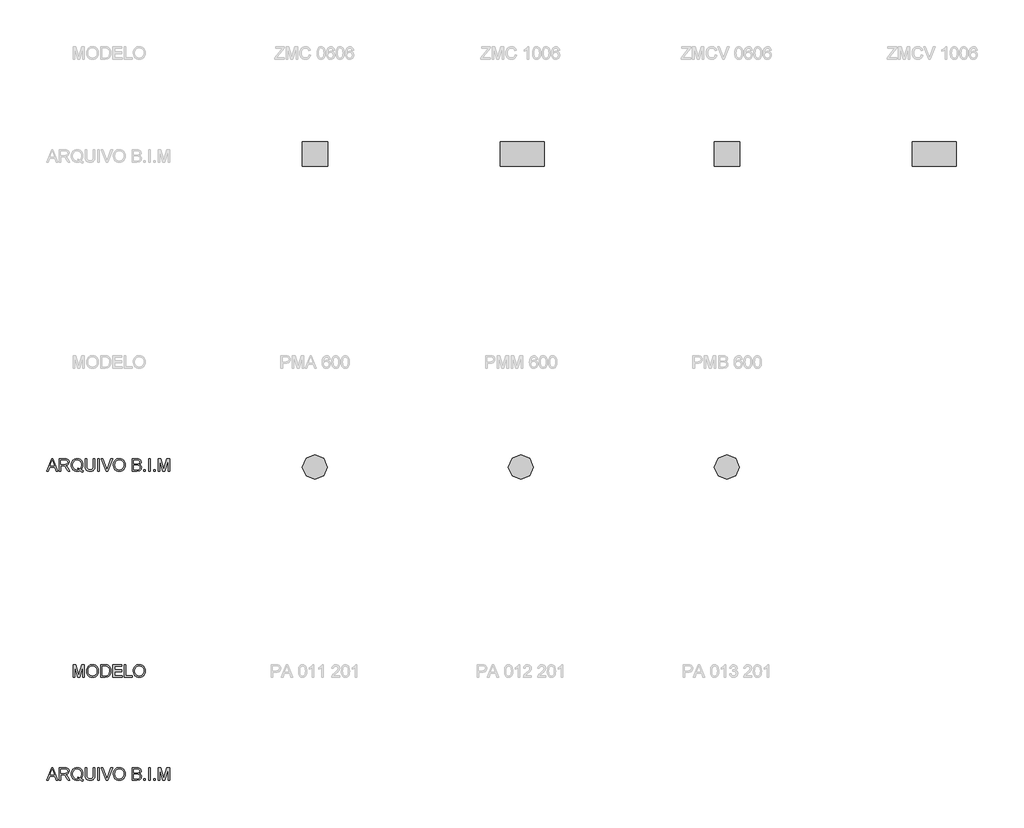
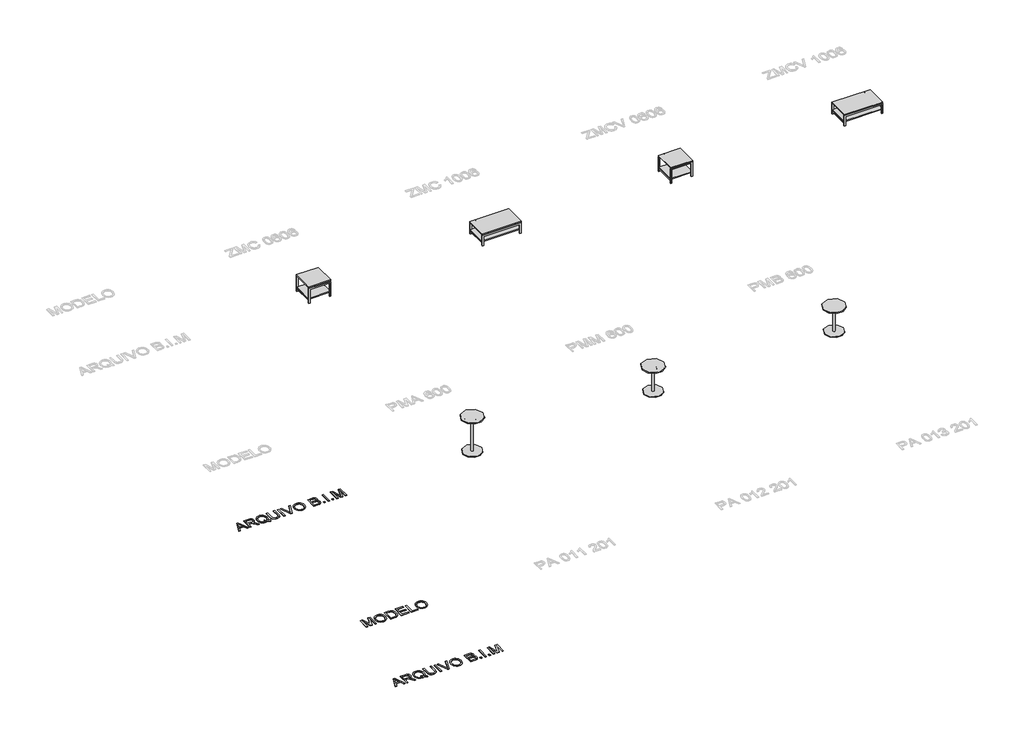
# One storey, part 1 of 5: 7 furniture elements, 3 proxies.
"""IFC4 building model written with IfcOpenShell, lengths in millimetres."""

from ifc_helpers import new_model, si_unit, origin, origin_with_axes, place, context, project, spatial, polyline, outline, extrude, transform, mapped, element, save
from components import furniture_a22a01db, furniture_84ceacd2, furniture_a7132519, furniture_01a6ce01, pma_600c_4e580cb3, pmb_600c_1b090ce4

model = new_model("IFC4")

# Units and contexts
model_context = context("Model", 3, world=origin())
ifc_project = project(units=[si_unit("LENGTHUNIT", "METRE", prefix="MILLI")], contexts=[model_context])

# Site, building, storey
site = spatial("IfcSite", under=ifc_project)
building = spatial("IfcBuilding", under=site)
storey = spatial("IfcBuildingStorey", under=building, Name="Marelli - Linha PERFECTA - Planta Baixa", Elevation=0.0)

# Proxies
placement = place(None, origin())
element("IfcBuildingElementProxy", 1, Name="300mm Arial", ObjectType="300mm Arial", at=placement, inside=storey, context=model_context, shape_type="SweptSolid", body=[
    extrude(outline(polyline([(-10609.419598, 6219.4336799), (-10489.1221856, 6520.8026104), (-10457.0428756, 6520.8026104), (-10336.7454632, 6219.4336799), (-10376.550295, 6219.4336799), (-10411.0576262, 6313.6114707), (-10535.1810114, 6313.6114707), (-10569.6147661, 6219.4336799), (-10609.419598, 6219.4336799)]), holes=[polyline([(-10521.3486483, 6351.282587), (-10424.8164128, 6351.282587), (-10451.9661041, 6425.3740208), (-10473.0825306, 6483.1314941), (-10491.8445123, 6431.8487439), (-10521.3486483, 6351.282587)])]), origin_with_axes(), (0.0, 0.0, 1.0), 10.0),
    extrude(outline(polyline([(-10296.4991729, 6219.4336799), (-10296.4991729, 6520.8026104), (-10166.6368286, 6520.8026104), (-10131.7340243, 6518.7700624), (-10106.3409696, 6512.6724183), (-10087.7813229, 6501.4152292), (-10073.3787428, 6483.9040463), (-10064.1357077, 6462.1898115), (-10061.054696, 6438.3234671), (-10066.1590587, 6408.6353901), (-10081.4721467, 6384.0240846), (-10093.0719259, 6373.9947017), (-10107.4538126, 6365.9794727), (-10144.5639089, 6355.9914765), (-10123.1531768, 6339.8782452), (-10092.6189712, 6301.1034829), (-10042.3662906, 6219.4336799), (-10086.144248, 6219.4336799), (-10125.3604687, 6281.9000427), (-10153.6873824, 6323.249979), (-10173.5897983, 6342.7845129), (-10191.5056515, 6349.9582118), (-10213.357842, 6351.282587), (-10258.8280566, 6351.282587), (-10258.8280566, 6219.4336799), (-10296.4991729, 6219.4336799)]), holes=[polyline([(-10258.8280566, 6388.9537033), (-10174.5095033, 6388.9537033), (-10150.293671, 6390.2872755), (-10131.5040981, 6394.2879922), (-10117.3590353, 6401.2225678), (-10107.0767336, 6411.3577168), (-10100.8135426, 6423.6173843), (-10098.7258123, 6436.9255155), (-10102.7081349, 6455.3012211), (-10114.6551027, 6470.1084714), (-10135.2105092, 6479.8757384), (-10165.0181478, 6483.1314941), (-10258.8280566, 6483.1314941), (-10258.8280566, 6388.9537033)])]), origin_with_axes(), (0.0, 0.0, 1.0), 10.0),
    extrude(outline(polyline([(-9768.7356626, 6255.5596919), (-9744.4002686, 6236.963257), (-9722.0146492, 6224.1425695), (-9732.1681923, 6196.5514198), (-9763.2358268, 6210.9539999), (-9794.1930967, 6231.794515), (-9829.0499157, 6218.9922215), (-9867.4016137, 6214.7247904), (-9905.9372527, 6219.6452121), (-9940.7572836, 6234.4064771), (-9969.9211287, 6258.0796835), (-9991.4882107, 6289.7359292), (-10004.814736, 6327.6369718), (-10009.2569111, 6370.0445688), (-10004.823933, 6412.488954), (-9991.5249989, 6450.9418195), (-9970.0406904, 6483.0487206), (-9941.0515892, 6506.4552126), (-9906.360317, 6520.7474281), (-9867.7694957, 6525.5114999), (-9828.8751718, 6520.6370635), (-9794.0091557, 6506.0137542), (-9765.0660397, 6482.6164593), (-9743.9404161, 6451.4200661), (-9731.0277581, 6414.0800436), (-9726.7235388, 6372.2518607), (-9729.3355009, 6337.4686181), (-9737.1713874, 6306.4009836), (-9750.2863806, 6279.0857454), (-9768.7356626, 6255.5596919)]), holes=[polyline([(-9857.0273415, 6305.6652196), (-9825.3527017, 6293.6906607), (-9799.784903, 6277.0440004), (-9784.3016695, 6294.5183951), (-9773.2422171, 6315.8923391), (-9766.6065456, 6341.1658321), (-9764.3946551, 6370.3388744), (-9767.521652, 6403.4942392), (-9776.9026429, 6432.1798377), (-9792.3077015, 6455.6691031), (-9813.5069014, 6473.2354684), (-9839.065503, 6484.1891548), (-9867.5487665, 6487.8403836), (-9889.033075, 6485.9940758), (-9908.6043972, 6480.4551526), (-9926.2627329, 6471.2236137), (-9942.0080823, 6458.2994594), (-9954.9483315, 6441.7102807), (-9964.1913666, 6421.4836687), (-9969.7371877, 6397.6196236), (-9971.5857948, 6370.1181452), (-9969.7578811, 6343.3340366), (-9964.2741401, 6319.8562676), (-9955.1345718, 6299.6848379), (-9942.3391761, 6282.8197477), (-9926.7018921, 6269.5093173), (-9909.0366585, 6260.001867), (-9889.3434755, 6254.2973968), (-9867.6223429, 6252.3959067), (-9846.7082515, 6254.3272872), (-9827.081747, 6260.1214286), (-9846.3771577, 6270.146213), (-9866.7394261, 6276.8232712), (-9857.0273415, 6305.6652196)])]), origin_with_axes(), (0.0, 0.0, 1.0), 10.0),
    extrude(outline(polyline([(-9472.4435037, 6520.8026104), (-9434.7723874, 6520.8026104), (-9434.7723874, 6346.9415795), (-9437.3291673, 6306.2262396), (-9444.9995069, 6274.8734966), (-9459.3285106, 6250.6852554), (-9481.8612828, 6231.4634212), (-9512.6530058, 6218.9094481), (-9551.7588619, 6214.7247904), (-9590.0093923, 6218.3668221), (-9620.5895832, 6229.2929174), (-9643.5086315, 6247.1259971), (-9658.7757343, 6271.4889822), (-9667.3565818, 6304.1661005), (-9670.2168643, 6346.9415795), (-9670.2168643, 6520.8026104), (-9632.545748, 6520.8026104), (-9632.545748, 6348.2659546), (-9630.6879439, 6314.411614), (-9625.1145317, 6290.8395752), (-9615.0161709, 6274.5148117), (-9599.5835212, 6262.402297), (-9579.4603761, 6254.8975043), (-9555.290529, 6252.3959067), (-9516.9756192, 6257.3439195), (-9502.6328199, 6263.5289356), (-9491.499791, 6272.187958), (-9483.1626653, 6284.3648521), (-9477.2075755, 6301.1034829), (-9472.4435037, 6348.2659546), (-9472.4435037, 6520.8026104)])), origin_with_axes(), (0.0, 0.0, 1.0), 10.0),
    extrude(outline(polyline([(-9364.1390443, 6219.4336799), (-9364.1390443, 6520.8026104), (-9326.467928, 6520.8026104), (-9326.467928, 6219.4336799), (-9364.1390443, 6219.4336799)])), origin_with_axes(), (0.0, 0.0, 1.0), 10.0),
    extrude(outline(polyline([(-9162.0982526, 6219.4336799), (-9282.027783, 6520.8026104), (-9241.7079163, 6520.8026104), (-9161.436065, 6303.6786568), (-9145.1756808, 6254.7503515), (-9129.1360258, 6303.6786568), (-9048.6434453, 6520.8026104), (-9008.3235786, 6520.8026104), (-9123.1763375, 6219.4336799), (-9162.0982526, 6219.4336799)])), origin_with_axes(), (0.0, 0.0, 1.0), 10.0),
    extrude(outline(polyline([(-8987.4278813, 6366.1450196), (-8984.9170866, 6401.4938808), (-8977.3847028, 6432.786843), (-8964.8307297, 6460.0239063), (-8947.2551674, 6483.2050705), (-8925.711078, 6501.7141334), (-8901.2515239, 6514.9348926), (-8873.8765049, 6522.8673481), (-8843.5860211, 6525.5114999), (-8804.0571008, 6520.545093), (-8768.6116705, 6505.6458722), (-8739.1811109, 6481.8623012), (-8717.6968024, 6450.2428437), (-8704.5634152, 6412.31421), (-8700.1856194, 6369.6031104), (-8704.7933414, 6326.3217936), (-8718.6165074, 6287.859731), (-8740.8917622, 6256.1850913), (-8770.8557507, 6233.266043), (-8805.9976783, 6219.3601035), (-8843.8067503, 6214.7247904), (-8883.942676, 6219.8475472), (-8919.5904413, 6235.2158175), (-8948.9474246, 6259.4408469), (-8970.2110039, 6291.1338808), (-8983.1236619, 6327.6001836), (-8987.4278813, 6366.1450196)]), holes=[polyline([(-8949.7567649, 6365.7771376), (-8947.873669, 6340.8025487), (-8942.2243811, 6318.6330599), (-8932.8089013, 6299.2686714), (-8919.6272295, 6282.7093831), (-8903.6036694, 6269.4472372), (-8885.6625243, 6259.9742758), (-8865.8037944, 6254.290499), (-8844.0274795, 6252.3959067), (-8821.8786842, 6254.3088931), (-8801.7854294, 6260.0478522), (-8783.7477154, 6269.6127841), (-8767.7655419, 6283.0036887), (-8754.6804392, 6299.9124649), (-8745.3339373, 6320.0310115), (-8739.7260361, 6343.3593285), (-8737.8567357, 6369.897416), (-8741.0573091, 6403.2459188), (-8750.6590292, 6432.0694731), (-8766.4135756, 6455.641512), (-8788.0726281, 6473.2354684), (-8814.2014468, 6484.1891548), (-8843.3652919, 6487.8403836), (-8864.3851494, 6486.0814478), (-8883.8874937, 6480.8046405), (-8901.8723248, 6472.0099615), (-8918.3396426, 6459.697411), (-8932.0846336, 6443.2737792), (-8941.9024844, 6422.1458563), (-8947.7931948, 6396.3136425), (-8949.7567649, 6365.7771376)])]), origin_with_axes(), (0.0, 0.0, 1.0), 10.0),
    extrude(outline(polyline([(-8530.665596, 6219.4336799), (-8530.665596, 6520.8026104), (-8415.6656844, 6520.8026104), (-8384.0370298, 6518.5861214), (-8359.3429509, 6511.9366543), (-8340.4154222, 6500.6886623), (-8326.0864185, 6484.6765985), (-8317.0641126, 6465.8410403), (-8314.0566773, 6446.1225654), (-8316.585866, 6427.9767859), (-8324.1734321, 6410.9162584), (-8336.874558, 6395.9894465), (-8354.7444259, 6384.2448138), (-8333.3980732, 6373.0979893), (-8317.6251326, 6356.1386293), (-8307.8854568, 6334.4887739), (-8304.6388982, 6309.2704632), (-8306.8553872, 6288.2552042), (-8313.5048543, 6268.7666555), (-8323.4284711, 6252.1935716), (-8335.4674094, 6239.9247071), (-8350.2102804, 6231.0403569), (-8368.2456952, 6224.6208161), (-8416.5486011, 6219.4336799), (-8530.665596, 6219.4336799)]), holes=[polyline([(-8492.9944797, 6398.3714824), (-8424.2005466, 6398.3714824), (-8384.0278328, 6401.6088439), (-8369.9655435, 6407.1914532), (-8359.8579857, 6415.5515716), (-8353.7603416, 6426.5604403), (-8351.7277936, 6440.0893006), (-8353.6223859, 6453.2226879), (-8359.3061627, 6464.6638179), (-8368.5216067, 6473.5941533), (-8381.0112004, 6479.1951567), (-8429.424471, 6483.1314941), (-8492.9944797, 6483.1314941), (-8492.9944797, 6398.3714824)]), polyline([(-8492.9944797, 6257.1047962), (-8415.7392607, 6257.1047962), (-8387.7802291, 6258.5763242), (-8364.1254168, 6266.7800927), (-8348.4536438, 6283.5187235), (-8343.8459218, 6295.3461296), (-8342.3100145, 6308.9025812), (-8344.1126363, 6324.6479306), (-8349.5205016, 6338.185988), (-8358.9658718, 6348.7717924), (-8372.8810083, 6355.6603827), (-8392.5902862, 6359.4403702), (-8419.4180807, 6360.7003661), (-8492.9944797, 6360.7003661), (-8492.9944797, 6257.1047962)])]), origin_with_axes(), (0.0, 0.0, 1.0), 10.0),
    extrude(outline(polyline([(-8248.1322237, 6219.4336799), (-8248.1322237, 6257.1047962), (-8210.4611074, 6257.1047962), (-8210.4611074, 6219.4336799), (-8248.1322237, 6219.4336799)])), origin_with_axes(), (0.0, 0.0, 1.0), 10.0),
    extrude(outline(polyline([(-8130.4099853, 6219.4336799), (-8130.4099853, 6520.8026104), (-8092.738869, 6520.8026104), (-8092.738869, 6219.4336799), (-8130.4099853, 6219.4336799)])), origin_with_axes(), (0.0, 0.0, 1.0), 10.0),
    extrude(outline(polyline([(-8012.6877468, 6219.4336799), (-8012.6877468, 6257.1047962), (-7975.0166305, 6257.1047962), (-7975.0166305, 6219.4336799), (-8012.6877468, 6219.4336799)])), origin_with_axes(), (0.0, 0.0, 1.0), 10.0),
    extrude(outline(polyline([(-7899.6743979, 6219.4336799), (-7899.6743979, 6520.8026104), (-7834.8535904, 6520.8026104), (-7773.196568, 6308.3875464), (-7760.7621565, 6264.0209777), (-7747.2976755, 6312.0663663), (-7686.6707227, 6520.8026104), (-7621.8499152, 6520.8026104), (-7621.8499152, 6219.4336799), (-7659.5210315, 6219.4336799), (-7659.5210315, 6483.1314941), (-7735.2311461, 6219.4336799), (-7786.293167, 6219.4336799), (-7862.0032816, 6483.1314941), (-7862.0032816, 6219.4336799), (-7899.6743979, 6219.4336799)])), origin_with_axes(), (0.0, 0.0, 1.0), 10.0),
])
element("IfcBuildingElementProxy", 2, Name="300mm Arial", ObjectType="300mm Arial", at=placement, inside=storey, context=model_context, shape_type="SweptSolid", body=[
    extrude(outline(polyline([(-10609.419598, -1280.5663201), (-10489.1221856, -979.1973896), (-10457.0428756, -979.1973896), (-10336.7454632, -1280.5663201), (-10376.550295, -1280.5663201), (-10411.0576262, -1186.3885293), (-10535.1810114, -1186.3885293), (-10569.6147661, -1280.5663201), (-10609.419598, -1280.5663201)]), holes=[polyline([(-10521.3486483, -1148.717413), (-10424.8164128, -1148.717413), (-10451.9661041, -1074.6259792), (-10473.0825306, -1016.8685059), (-10491.8445123, -1068.1512561), (-10521.3486483, -1148.717413)])]), origin_with_axes(), (0.0, 0.0, 1.0), 10.0),
    extrude(outline(polyline([(-10296.4991729, -1280.5663201), (-10296.4991729, -979.1973896), (-10166.6368286, -979.1973896), (-10131.7340243, -981.2299376), (-10106.3409696, -987.3275817), (-10087.7813229, -998.5847708), (-10073.3787428, -1016.0959537), (-10064.1357077, -1037.8101885), (-10061.054696, -1061.6765329), (-10066.1590587, -1091.3646099), (-10081.4721467, -1115.9759154), (-10093.0719259, -1126.0052983), (-10107.4538126, -1134.0205273), (-10144.5639089, -1144.0085235), (-10123.1531768, -1160.1217548), (-10092.6189712, -1198.8965171), (-10042.3662906, -1280.5663201), (-10086.144248, -1280.5663201), (-10125.3604687, -1218.0999573), (-10153.6873824, -1176.750021), (-10173.5897983, -1157.2154871), (-10191.5056515, -1150.0417882), (-10213.357842, -1148.717413), (-10258.8280566, -1148.717413), (-10258.8280566, -1280.5663201), (-10296.4991729, -1280.5663201)]), holes=[polyline([(-10258.8280566, -1111.0462967), (-10174.5095033, -1111.0462967), (-10150.293671, -1109.7127245), (-10131.5040981, -1105.7120078), (-10117.3590353, -1098.7774322), (-10107.0767336, -1088.6422832), (-10100.8135426, -1076.3826157), (-10098.7258123, -1063.0744845), (-10102.7081349, -1044.6987789), (-10114.6551027, -1029.8915286), (-10135.2105092, -1020.1242616), (-10165.0181478, -1016.8685059), (-10258.8280566, -1016.8685059), (-10258.8280566, -1111.0462967)])]), origin_with_axes(), (0.0, 0.0, 1.0), 10.0),
    extrude(outline(polyline([(-9768.7356626, -1244.4403081), (-9744.4002686, -1263.036743), (-9722.0146492, -1275.8574305), (-9732.1681923, -1303.4485802), (-9763.2358268, -1289.0460001), (-9794.1930967, -1268.205485), (-9829.0499157, -1281.0077785), (-9867.4016137, -1285.2752096), (-9905.9372527, -1280.3547879), (-9940.7572836, -1265.5935229), (-9969.9211287, -1241.9203165), (-9991.4882107, -1210.2640708), (-10004.814736, -1172.3630282), (-10009.2569111, -1129.9554312), (-10004.823933, -1087.511046), (-9991.5249989, -1049.0581805), (-9970.0406904, -1016.9512794), (-9941.0515892, -993.5447874), (-9906.360317, -979.2525719), (-9867.7694957, -974.4885001), (-9828.8751718, -979.3629365), (-9794.0091557, -993.9862458), (-9765.0660397, -1017.3835407), (-9743.9404161, -1048.5799339), (-9731.0277581, -1085.9199564), (-9726.7235388, -1127.7481393), (-9729.3355009, -1162.5313819), (-9737.1713874, -1193.5990164), (-9750.2863806, -1220.9142546), (-9768.7356626, -1244.4403081)]), holes=[polyline([(-9857.0273415, -1194.3347804), (-9825.3527017, -1206.3093393), (-9799.784903, -1222.9559996), (-9784.3016695, -1205.4816049), (-9773.2422171, -1184.1076609), (-9766.6065456, -1158.8341679), (-9764.3946551, -1129.6611256), (-9767.521652, -1096.5057608), (-9776.9026429, -1067.8201623), (-9792.3077015, -1044.3308969), (-9813.5069014, -1026.7645316), (-9839.065503, -1015.8108452), (-9867.5487665, -1012.1596164), (-9889.033075, -1014.0059242), (-9908.6043972, -1019.5448474), (-9926.2627329, -1028.7763863), (-9942.0080823, -1041.7005406), (-9954.9483315, -1058.2897193), (-9964.1913666, -1078.5163313), (-9969.7371877, -1102.3803764), (-9971.5857948, -1129.8818548), (-9969.7578811, -1156.6659634), (-9964.2741401, -1180.1437324), (-9955.1345718, -1200.3151621), (-9942.3391761, -1217.1802523), (-9926.7018921, -1230.4906827), (-9909.0366585, -1239.998133), (-9889.3434755, -1245.7026032), (-9867.6223429, -1247.6040933), (-9846.7082515, -1245.6727128), (-9827.081747, -1239.8785714), (-9846.3771577, -1229.853787), (-9866.7394261, -1223.1767288), (-9857.0273415, -1194.3347804)])]), origin_with_axes(), (0.0, 0.0, 1.0), 10.0),
    extrude(outline(polyline([(-9472.4435037, -979.1973896), (-9434.7723874, -979.1973896), (-9434.7723874, -1153.0584205), (-9437.3291673, -1193.7737604), (-9444.9995069, -1225.1265034), (-9459.3285106, -1249.3147446), (-9481.8612828, -1268.5365788), (-9512.6530058, -1281.0905519), (-9551.7588619, -1285.2752096), (-9590.0093923, -1281.6331779), (-9620.5895832, -1270.7070826), (-9643.5086315, -1252.8740029), (-9658.7757343, -1228.5110178), (-9667.3565818, -1195.8338995), (-9670.2168643, -1153.0584205), (-9670.2168643, -979.1973896), (-9632.545748, -979.1973896), (-9632.545748, -1151.7340454), (-9630.6879439, -1185.588386), (-9625.1145317, -1209.1604248), (-9615.0161709, -1225.4851883), (-9599.5835212, -1237.597703), (-9579.4603761, -1245.1024957), (-9555.290529, -1247.6040933), (-9516.9756192, -1242.6560805), (-9502.6328199, -1236.4710644), (-9491.499791, -1227.812042), (-9483.1626653, -1215.6351479), (-9477.2075755, -1198.8965171), (-9472.4435037, -1151.7340454), (-9472.4435037, -979.1973896)])), origin_with_axes(), (0.0, 0.0, 1.0), 10.0),
    extrude(outline(polyline([(-9364.1390443, -1280.5663201), (-9364.1390443, -979.1973896), (-9326.467928, -979.1973896), (-9326.467928, -1280.5663201), (-9364.1390443, -1280.5663201)])), origin_with_axes(), (0.0, 0.0, 1.0), 10.0),
    extrude(outline(polyline([(-9162.0982526, -1280.5663201), (-9282.027783, -979.1973896), (-9241.7079163, -979.1973896), (-9161.436065, -1196.3213432), (-9145.1756808, -1245.2496485), (-9129.1360258, -1196.3213432), (-9048.6434453, -979.1973896), (-9008.3235786, -979.1973896), (-9123.1763375, -1280.5663201), (-9162.0982526, -1280.5663201)])), origin_with_axes(), (0.0, 0.0, 1.0), 10.0),
    extrude(outline(polyline([(-8987.4278813, -1133.8549804), (-8984.9170866, -1098.5061192), (-8977.3847028, -1067.213157), (-8964.8307297, -1039.9760937), (-8947.2551674, -1016.7949295), (-8925.711078, -998.2858666), (-8901.2515239, -985.0651074), (-8873.8765049, -977.1326519), (-8843.5860211, -974.4885001), (-8804.0571008, -979.454907), (-8768.6116705, -994.3541278), (-8739.1811109, -1018.1376988), (-8717.6968024, -1049.7571563), (-8704.5634152, -1087.68579), (-8700.1856194, -1130.3968896), (-8704.7933414, -1173.6782064), (-8718.6165074, -1212.140269), (-8740.8917622, -1243.8149087), (-8770.8557507, -1266.733957), (-8805.9976783, -1280.6398965), (-8843.8067503, -1285.2752096), (-8883.942676, -1280.1524528), (-8919.5904413, -1264.7841825), (-8948.9474246, -1240.5591531), (-8970.2110039, -1208.8661192), (-8983.1236619, -1172.3998164), (-8987.4278813, -1133.8549804)]), holes=[polyline([(-8949.7567649, -1134.2228624), (-8947.873669, -1159.1974513), (-8942.2243811, -1181.3669401), (-8932.8089013, -1200.7313286), (-8919.6272295, -1217.2906169), (-8903.6036694, -1230.5527628), (-8885.6625243, -1240.0257242), (-8865.8037944, -1245.709501), (-8844.0274795, -1247.6040933), (-8821.8786842, -1245.6911069), (-8801.7854294, -1239.9521478), (-8783.7477154, -1230.3872159), (-8767.7655419, -1216.9963113), (-8754.6804392, -1200.0875351), (-8745.3339373, -1179.9689885), (-8739.7260361, -1156.6406715), (-8737.8567357, -1130.102584), (-8741.0573091, -1096.7540812), (-8750.6590292, -1067.9305269), (-8766.4135756, -1044.358488), (-8788.0726281, -1026.7645316), (-8814.2014468, -1015.8108452), (-8843.3652919, -1012.1596164), (-8864.3851494, -1013.9185522), (-8883.8874937, -1019.1953595), (-8901.8723248, -1027.9900385), (-8918.3396426, -1040.302589), (-8932.0846336, -1056.7262208), (-8941.9024844, -1077.8541437), (-8947.7931948, -1103.6863575), (-8949.7567649, -1134.2228624)])]), origin_with_axes(), (0.0, 0.0, 1.0), 10.0),
    extrude(outline(polyline([(-8530.665596, -1280.5663201), (-8530.665596, -979.1973896), (-8415.6656844, -979.1973896), (-8384.0370298, -981.4138786), (-8359.3429509, -988.0633457), (-8340.4154222, -999.3113377), (-8326.0864185, -1015.3234015), (-8317.0641126, -1034.1589597), (-8314.0566773, -1053.8774346), (-8316.585866, -1072.0232141), (-8324.1734321, -1089.0837416), (-8336.874558, -1104.0105535), (-8354.7444259, -1115.7551862), (-8333.3980732, -1126.9020107), (-8317.6251326, -1143.8613707), (-8307.8854568, -1165.5112261), (-8304.6388982, -1190.7295368), (-8306.8553872, -1211.7447958), (-8313.5048543, -1231.2333445), (-8323.4284711, -1247.8064284), (-8335.4674094, -1260.0752929), (-8350.2102804, -1268.9596431), (-8368.2456952, -1275.3791839), (-8416.5486011, -1280.5663201), (-8530.665596, -1280.5663201)]), holes=[polyline([(-8492.9944797, -1101.6285176), (-8424.2005466, -1101.6285176), (-8384.0278328, -1098.3911561), (-8369.9655435, -1092.8085468), (-8359.8579857, -1084.4484284), (-8353.7603416, -1073.4395597), (-8351.7277936, -1059.9106994), (-8353.6223859, -1046.7773121), (-8359.3061627, -1035.3361821), (-8368.5216067, -1026.4058467), (-8381.0112004, -1020.8048433), (-8429.424471, -1016.8685059), (-8492.9944797, -1016.8685059), (-8492.9944797, -1101.6285176)]), polyline([(-8492.9944797, -1242.8952038), (-8415.7392607, -1242.8952038), (-8387.7802291, -1241.4236758), (-8364.1254168, -1233.2199073), (-8348.4536438, -1216.4812765), (-8343.8459218, -1204.6538704), (-8342.3100145, -1191.0974188), (-8344.1126363, -1175.3520694), (-8349.5205016, -1161.814012), (-8358.9658718, -1151.2282076), (-8372.8810083, -1144.3396173), (-8392.5902862, -1140.5596298), (-8419.4180807, -1139.2996339), (-8492.9944797, -1139.2996339), (-8492.9944797, -1242.8952038)])]), origin_with_axes(), (0.0, 0.0, 1.0), 10.0),
    extrude(outline(polyline([(-8248.1322237, -1280.5663201), (-8248.1322237, -1242.8952038), (-8210.4611074, -1242.8952038), (-8210.4611074, -1280.5663201), (-8248.1322237, -1280.5663201)])), origin_with_axes(), (0.0, 0.0, 1.0), 10.0),
    extrude(outline(polyline([(-8130.4099853, -1280.5663201), (-8130.4099853, -979.1973896), (-8092.738869, -979.1973896), (-8092.738869, -1280.5663201), (-8130.4099853, -1280.5663201)])), origin_with_axes(), (0.0, 0.0, 1.0), 10.0),
    extrude(outline(polyline([(-8012.6877468, -1280.5663201), (-8012.6877468, -1242.8952038), (-7975.0166305, -1242.8952038), (-7975.0166305, -1280.5663201), (-8012.6877468, -1280.5663201)])), origin_with_axes(), (0.0, 0.0, 1.0), 10.0),
    extrude(outline(polyline([(-7899.6743979, -1280.5663201), (-7899.6743979, -979.1973896), (-7834.8535904, -979.1973896), (-7773.196568, -1191.6124536), (-7760.7621565, -1235.9790223), (-7747.2976755, -1187.9336337), (-7686.6707227, -979.1973896), (-7621.8499152, -979.1973896), (-7621.8499152, -1280.5663201), (-7659.5210315, -1280.5663201), (-7659.5210315, -1016.8685059), (-7735.2311461, -1280.5663201), (-7786.293167, -1280.5663201), (-7862.0032816, -1016.8685059), (-7862.0032816, -1280.5663201), (-7899.6743979, -1280.5663201)])), origin_with_axes(), (0.0, 0.0, 1.0), 10.0),
])
element("IfcBuildingElementProxy", 3, Name="300mm Arial", ObjectType="300mm Arial", at=placement, inside=storey, context=model_context, shape_type="SweptSolid", body=[
    extrude(outline(polyline([(-9966.8769052, 1219.4336799), (-9966.8769052, 1520.8026104), (-9902.0560977, 1520.8026104), (-9840.3990753, 1308.3875464), (-9827.9646638, 1264.0209777), (-9814.5001828, 1312.0663663), (-9753.87323, 1520.8026104), (-9689.0524225, 1520.8026104), (-9689.0524225, 1219.4336799), (-9726.7235388, 1219.4336799), (-9726.7235388, 1483.1314941), (-9802.4336534, 1219.4336799), (-9853.4956743, 1219.4336799), (-9929.2057889, 1483.1314941), (-9929.2057889, 1219.4336799), (-9966.8769052, 1219.4336799)])), origin_with_axes(), (0.0, 0.0, 1.0), 10.0),
    extrude(outline(polyline([(-9637.2546375, 1366.1450196), (-9634.7438429, 1401.4938808), (-9627.2114591, 1432.786843), (-9614.657486, 1460.0239063), (-9597.0819237, 1483.2050705), (-9575.5378343, 1501.7141334), (-9551.0782802, 1514.9348926), (-9523.7032612, 1522.8673481), (-9493.4127774, 1525.5114999), (-9453.883857, 1520.545093), (-9418.4384268, 1505.6458722), (-9389.0078672, 1481.8623012), (-9367.5235587, 1450.2428437), (-9354.3901714, 1412.31421), (-9350.0123757, 1369.6031104), (-9354.6200977, 1326.3217936), (-9368.4432637, 1287.859731), (-9390.7185185, 1256.1850913), (-9420.682507, 1233.266043), (-9455.8244346, 1219.3601035), (-9493.6335066, 1214.7247904), (-9533.7694323, 1219.8475472), (-9569.4171976, 1235.2158175), (-9598.7741808, 1259.4408469), (-9620.0377602, 1291.1338808), (-9632.9504182, 1327.6001836), (-9637.2546375, 1366.1450196)]), holes=[polyline([(-9599.5835212, 1365.7771376), (-9597.7004253, 1340.8025487), (-9592.0511374, 1318.6330599), (-9582.6356576, 1299.2686714), (-9569.4539858, 1282.7093831), (-9553.4304257, 1269.4472372), (-9535.4892806, 1259.9742758), (-9515.6305507, 1254.290499), (-9493.8542358, 1252.3959067), (-9471.7054404, 1254.3088931), (-9451.6121857, 1260.0478522), (-9433.5744716, 1269.6127841), (-9417.5922982, 1283.0036887), (-9404.5071955, 1299.9124649), (-9395.1606936, 1320.0310115), (-9389.5527924, 1343.3593285), (-9387.683492, 1369.897416), (-9390.8840654, 1403.2459188), (-9400.4857854, 1432.0694731), (-9416.2403319, 1455.641512), (-9437.8993843, 1473.2354684), (-9464.0282031, 1484.1891548), (-9493.1920482, 1487.8403836), (-9514.2119057, 1486.0814478), (-9533.71425, 1480.8046405), (-9551.699081, 1472.0099615), (-9568.1663988, 1459.697411), (-9581.9113899, 1443.2737792), (-9591.7292406, 1422.1458563), (-9597.6199511, 1396.3136425), (-9599.5835212, 1365.7771376)])]), origin_with_axes(), (0.0, 0.0, 1.0), 10.0),
    extrude(outline(polyline([(-9298.2145908, 1219.4336799), (-9298.2145908, 1520.8026104), (-9194.2511389, 1520.8026104), (-9140.4667912, 1516.4616028), (-9116.444097, 1508.0922874), (-9096.173799, 1494.9037179), (-9075.333284, 1471.9478814), (-9060.4892455, 1443.4002386), (-9051.6048953, 1409.8126124), (-9048.6434453, 1371.7368259), (-9050.6484021, 1339.3908015), (-9056.6632727, 1310.9259321), (-9065.8235344, 1286.6917057), (-9077.2646645, 1267.0376101), (-9090.4348399, 1251.522187), (-9104.7822377, 1239.7039779), (-9121.254154, 1230.9391893), (-9140.797885, 1224.5840279), (-9189.2479438, 1219.4336799), (-9298.2145908, 1219.4336799)]), holes=[polyline([(-9260.5434745, 1257.1047962), (-9193.8832569, 1257.1047962), (-9166.3105014, 1258.4659596), (-9145.39641, 1262.5494498), (-9129.6142724, 1269.1161434), (-9117.4373783, 1277.9269172), (-9104.3499764, 1294.2332866), (-9094.51833, 1315.3405161), (-9088.3655037, 1341.3405761), (-9086.3145616, 1372.3254371), (-9090.3336724, 1413.3810678), (-9102.3910047, 1443.6945442), (-9120.2056904, 1464.5166651), (-9141.4968608, 1477.0982294), (-9163.1651103, 1481.6231779), (-9194.9133265, 1483.1314941), (-9260.5434745, 1483.1314941), (-9260.5434745, 1257.1047962)])]), origin_with_axes(), (0.0, 0.0, 1.0), 10.0),
    extrude(outline(polyline([(-8996.8456603, 1219.4336799), (-8996.8456603, 1520.8026104), (-8780.2367416, 1520.8026104), (-8780.2367416, 1483.1314941), (-8959.174544, 1483.1314941), (-8959.174544, 1393.6625928), (-8789.6545206, 1393.6625928), (-8789.6545206, 1355.9914765), (-8959.174544, 1355.9914765), (-8959.174544, 1257.1047962), (-8775.527852, 1257.1047962), (-8775.527852, 1219.4336799), (-8996.8456603, 1219.4336799)])), origin_with_axes(), (0.0, 0.0, 1.0), 10.0),
    extrude(outline(polyline([(-8719.0211776, 1219.4336799), (-8719.0211776, 1520.8026104), (-8681.3500613, 1520.8026104), (-8681.3500613, 1257.1047962), (-8530.665596, 1257.1047962), (-8530.665596, 1219.4336799), (-8719.0211776, 1219.4336799)])), origin_with_axes(), (0.0, 0.0, 1.0), 10.0),
    extrude(outline(polyline([(-8502.4122588, 1366.1450196), (-8499.9014642, 1401.4938808), (-8492.3690803, 1432.786843), (-8479.8151073, 1460.0239063), (-8462.2395449, 1483.2050705), (-8440.6954556, 1501.7141334), (-8416.2359014, 1514.9348926), (-8388.8608825, 1522.8673481), (-8358.5703987, 1525.5114999), (-8319.0414783, 1520.545093), (-8283.5960481, 1505.6458722), (-8254.1654885, 1481.8623012), (-8232.6811799, 1450.2428437), (-8219.5477927, 1412.31421), (-8215.169997, 1369.6031104), (-8219.777719, 1326.3217936), (-8233.6008849, 1287.859731), (-8255.8761397, 1256.1850913), (-8285.8401283, 1233.266043), (-8320.9820558, 1219.3601035), (-8358.7911279, 1214.7247904), (-8398.9270536, 1219.8475472), (-8434.5748189, 1235.2158175), (-8463.9318021, 1259.4408469), (-8485.1953814, 1291.1338808), (-8498.1080395, 1327.6001836), (-8502.4122588, 1366.1450196)]), holes=[polyline([(-8464.7411425, 1365.7771376), (-8462.8580465, 1340.8025487), (-8457.2087587, 1318.6330599), (-8447.7932788, 1299.2686714), (-8434.6116071, 1282.7093831), (-8418.5880469, 1269.4472372), (-8400.6469019, 1259.9742758), (-8380.7881719, 1254.290499), (-8359.0118571, 1252.3959067), (-8336.8630617, 1254.3088931), (-8316.769807, 1260.0478522), (-8298.7320929, 1269.6127841), (-8282.7499195, 1283.0036887), (-8269.6648168, 1299.9124649), (-8260.3183148, 1320.0310115), (-8254.7104137, 1343.3593285), (-8252.8411133, 1369.897416), (-8256.0416866, 1403.2459188), (-8265.6434067, 1432.0694731), (-8281.3979532, 1455.641512), (-8303.0570056, 1473.2354684), (-8329.1858243, 1484.1891548), (-8358.3496695, 1487.8403836), (-8379.369527, 1486.0814478), (-8398.8718713, 1480.8046405), (-8416.8567023, 1472.0099615), (-8433.3240201, 1459.697411), (-8447.0690112, 1443.2737792), (-8456.8868619, 1422.1458563), (-8462.7775724, 1396.3136425), (-8464.7411425, 1365.7771376)])]), origin_with_axes(), (0.0, 0.0, 1.0), 10.0),
])

# Furniture
furniture_shape = furniture_a22a01db(model_context)
element("IfcFurniture", 4, ObjectType="Mobiliário_MobiliáriodeEscritório_LinhaPERFECTA_Mesa de Centro - ZMC 0606_Marelli : Mobiliário_MobiliáriodeEscritório_LinhaPERFECTA_Mesa de Centro - ZMC 0606_Marelli", at=placement, inside=storey, context=model_context, shape_type="MappedRepresentation", body=[
    mapped(furniture_shape, transform((-4398.0867854, 13619.4336799, 0.0), x_axis=(1.0, 0.0, 0.0), y_axis=(0.0, 1.0, 0.0), z_axis=(0.0, 0.0, 1.0))),
])
furniture_2_shape = furniture_84ceacd2(model_context)
element("IfcFurniture", 5, ObjectType="Mobiliário_MobiliáriodeEscritório_LinhaPERFECTA_Mesa de Centro - ZMC 1006_Marelli : Mobiliário_MobiliáriodeEscritório_LinhaPERFECTA_Mesa de Centro - ZMC 1006_Marelli", at=placement, inside=storey, context=model_context, shape_type="MappedRepresentation", body=[
    mapped(furniture_2_shape, transform((401.9132146, 13619.4336799, 0.0), x_axis=(1.0, 0.0, 0.0), y_axis=(0.0, 1.0, 0.0), z_axis=(0.0, 0.0, 1.0))),
])
furniture_3_shape = furniture_a7132519(model_context)
element("IfcFurniture", 6, ObjectType="Mobiliário_MobiliáriodeEscritório_LinhaPERFECTA_Mesa de Centro - ZMCV 0606_Marelli : Mobiliário_MobiliáriodeEscritório_LinhaPERFECTA_Mesa de Centro - ZMCV 0606_Marelli", at=placement, inside=storey, context=model_context, shape_type="MappedRepresentation", body=[
    mapped(furniture_3_shape, transform((5601.9132146, 13619.4336799, 0.0), x_axis=(1.0, 0.0, 0.0), y_axis=(0.0, 1.0, 0.0), z_axis=(0.0, 0.0, 1.0))),
])
furniture_4_shape = furniture_01a6ce01(model_context)
element("IfcFurniture", 7, ObjectType="Mobiliário_MobiliáriodeEscritório_LinhaPERFECTA_Mesa de Centro - ZMCV 1006_Marelli : Mobiliário_MobiliáriodeEscritório_LinhaPERFECTA_Mesa de Centro - ZMCV 1006_Marelli", at=placement, inside=storey, context=model_context, shape_type="MappedRepresentation", body=[
    mapped(furniture_4_shape, transform((10401.9132146, 13619.4336799, 0.0), x_axis=(1.0, 0.0, 0.0), y_axis=(0.0, 1.0, 0.0), z_axis=(0.0, 0.0, 1.0))),
])
pma_600c_shape = pma_600c_4e580cb3(model_context)
element("IfcFurniture", 8, ObjectType="Mobiliário_MobiliáriodeEscritório_LinhaPERFECTA_Mesa Lateral - PMA600C, PMM600C e PMB600C_Marelli : PMA 600C", at=placement, inside=storey, context=model_context, shape_type="MappedRepresentation", body=[
    mapped(pma_600c_shape, transform((-4098.0867854, 6319.4336799, 0.0), x_axis=(1.0, 0.0, 0.0), y_axis=(0.0, 1.0, 0.0), z_axis=(0.0, 0.0, 1.0))),
])
pmb_600c_shape = pmb_600c_1b090ce4(model_context)
element("IfcFurniture", 9, ObjectType="Mobiliário_MobiliáriodeEscritório_LinhaPERFECTA_Mesa Lateral - PMA600C, PMM600C e PMB600C_Marelli : PMB 600C", at=placement, inside=storey, context=model_context, shape_type="MappedRepresentation", body=[
    mapped(pmb_600c_shape, transform((5901.9132146, 6319.4336799, 0.0), x_axis=(1.0, 0.0, 0.0), y_axis=(0.0, 1.0, 0.0), z_axis=(0.0, 0.0, 1.0))),
])
element("IfcFurniture", 10, ObjectType="Mobiliário_MobiliáriodeEscritório_LinhaPERFECTA_Mesa Lateral - PMA600C, PMM600C e PMB600C_Marelli : PMM 600C", at=placement, inside=storey, context=model_context, shape_type="MappedRepresentation", body=[
    mapped(pmb_600c_shape, transform((901.9132146, 6319.4336799, 0.0), x_axis=(1.0, 0.0, 0.0), y_axis=(0.0, 1.0, 0.0), z_axis=(0.0, 0.0, 1.0))),
])

save(model, "model.ifc")
